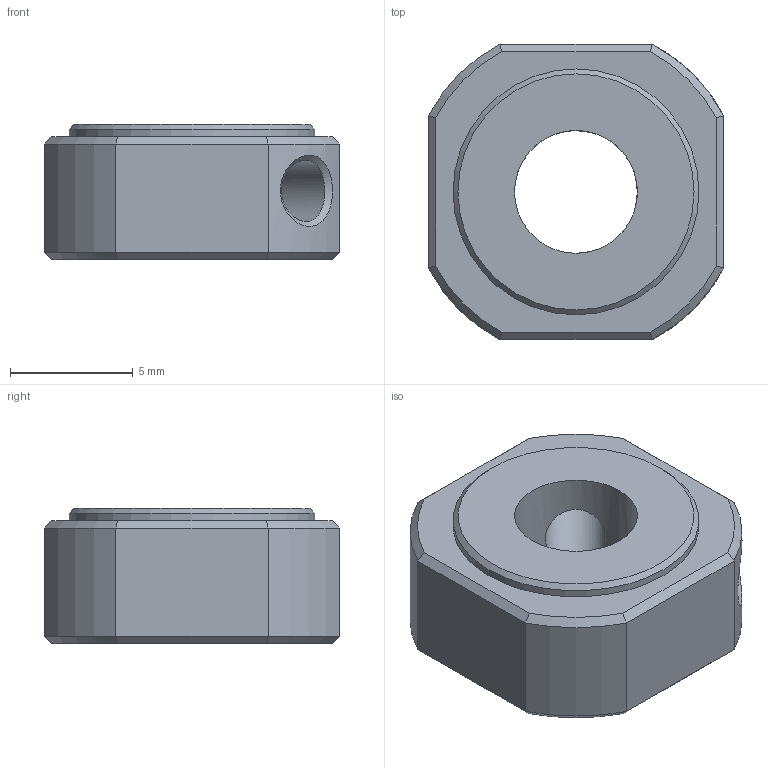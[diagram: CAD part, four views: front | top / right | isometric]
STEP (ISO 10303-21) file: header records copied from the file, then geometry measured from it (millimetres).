
FILE_DESCRIPTION(('STEP AP214'),'1');
FILE_NAME('RN6.stp','2016-09-23T12:25:59',(' '),(' '),'Spatial InterOp 3D',' ',' ');
FILE_SCHEMA(('automotive_design'));
Length unit declared in the file: millimetre
Products named in the file (1): Part42
Bounding box: 12 x 12 x 5.5 mm (x, y, z)
Volume: 537.4 mm3; surface area: 558.9 mm2
Topology: 1 solids, 1 shells, 34 faces, 75 edges, 44 vertices
Faces by surface type: plane 15, cone 9, cylinder 8, bspline 2
Full cylindrical faces by diameter (mm): 2.5 x2, 5 x1, 10 x1
Entity records: 1416 total; most frequent: CARTESIAN_POINT 439, ORIENTED_EDGE 134, DIRECTION 132, EDGE_CURVE 67, AXIS2_PLACEMENT_3D 54, EDGE_LOOP 48, VERTEX_POINT 43, FACE_OUTER_BOUND 40
